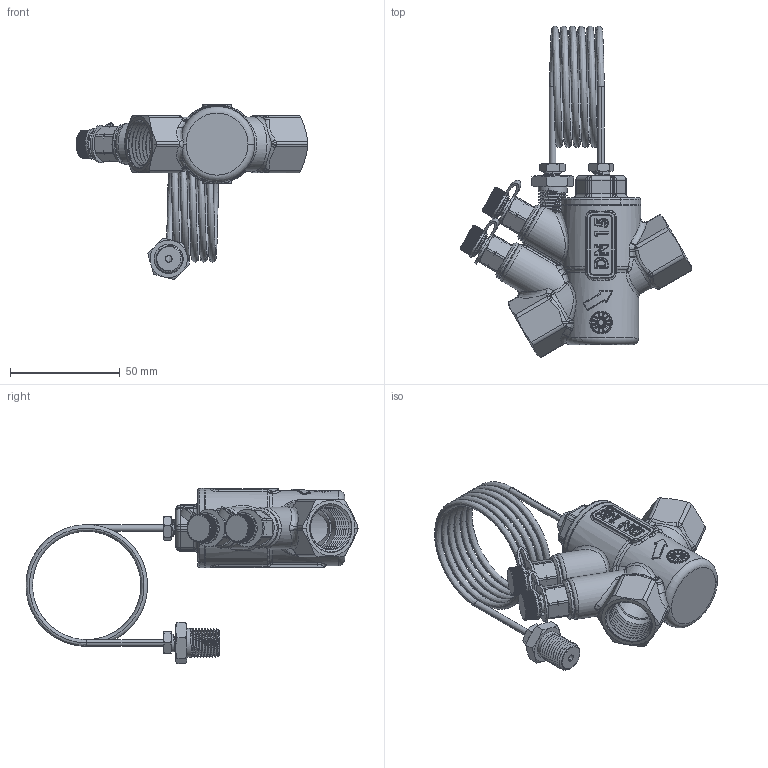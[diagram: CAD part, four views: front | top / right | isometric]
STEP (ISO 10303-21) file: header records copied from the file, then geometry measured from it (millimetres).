
FILE_DESCRIPTION (( 'STEP AP203' ), '1' );
FILE_NAME ('SDP.20 ABHouse DN15 ISO FF PTplugs.step', '2024-04-12T07:26:53', ( '' ), ( '' ), 'SwSTEP 2.0', 'SolidWorks 2023', '' );
FILE_SCHEMA (( 'CONFIG_CONTROL_DESIGN' ));
Products named in the file (1): SDP.20 ABHouse DN15 ISO FF PTplugs
Bounding box: 105.48 x 150.95 x 79.69 mm (x, y, z)
Surface area: 36755.4 mm2 (no closed solid volume)
Topology: 0 solids, 25 shells, 2629 faces, 12914 edges, 9463 vertices
Faces by surface type: bspline 1032, cylinder 962, plane 228, torus 221, cone 121, sphere 65
Entity records: 376822 total; most frequent: CARTESIAN_POINT 300355, ORIENTED_EDGE 18255, EDGE_CURVE 12852, B_SPLINE_CURVE_WITH_KNOTS 9586, VERTEX_POINT 9445, DIRECTION 8121, AXIS2_PLACEMENT_3D 3496, EDGE_LOOP 2697
